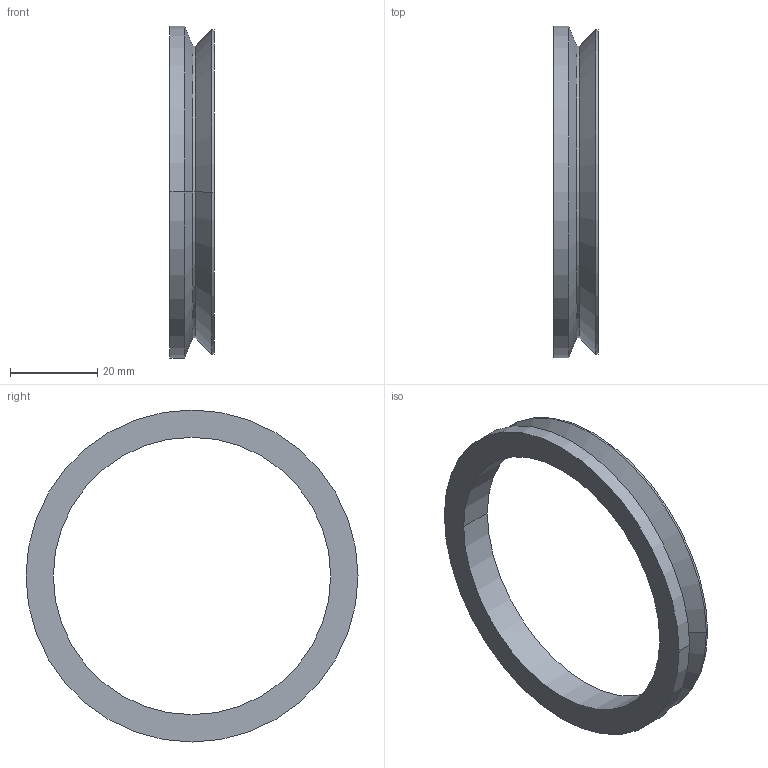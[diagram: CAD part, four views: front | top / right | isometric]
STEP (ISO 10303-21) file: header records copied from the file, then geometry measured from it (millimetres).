
FILE_DESCRIPTION (( 'STEP AP214' ), '1' );
FILE_NAME ('V-00070 - Auger Vring - v2.1.6_DFM Model.STEP', '2026-06-12T21:49:22', ( '' ), ( '' ), 'SwSTEP 2.0', 'SolidWorks 2023', '' );
FILE_SCHEMA (( 'AUTOMOTIVE_DESIGN' ));
Length unit declared in the file: inch
Products named in the file (1): V-00070 - Auger Vring - v2.1.6_DFM Model
Bounding box: 10.14 x 76 x 76 mm (x, y, z)
Volume: 8500.4 mm3; surface area: 7546.4 mm2
Topology: 1 solids, 1 shells, 15 faces, 30 edges, 16 vertices
Faces by surface type: cone 8, cylinder 6, plane 1
Entity records: 415 total; most frequent: DIRECTION 78, CARTESIAN_POINT 62, ORIENTED_EDGE 60, AXIS2_PLACEMENT_3D 32, EDGE_CURVE 30, CIRCLE 16, EDGE_LOOP 16, VERTEX_POINT 16
